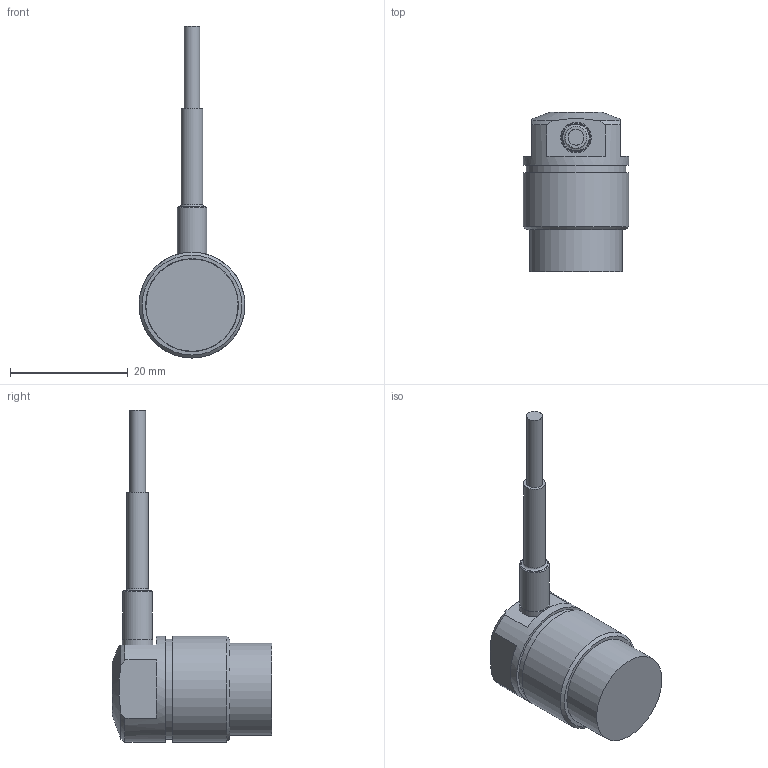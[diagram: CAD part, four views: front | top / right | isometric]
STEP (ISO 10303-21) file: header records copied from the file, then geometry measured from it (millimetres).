
FILE_DESCRIPTION( ( 'STEP AP214' ), '1' );
FILE_NAME( 'N:/Engineering/CAD_Solid/Wirbelstrom/Wirbelstromsensoren/T5/T5-S-KR.stp', '2011-12-01T13:27:03', ( ' ' ), ( ' ' ), 'XStep 1.0', ' ', ' ' );
FILE_SCHEMA( ( 'CONFIG_CONTROL_DESIGN) ( )' ) );
Length unit declared in the file: metre
Products named in the file (5): 1; 2; 3; 4; 5
Bounding box: 18 x 27.1 x 56.5 mm (x, y, z)
Surface area: 2742.1 mm2 (no closed solid volume)
Topology: 0 solids, 31 shells, 31 faces, 110 edges, 98 vertices
Faces by surface type: plane 16, cylinder 8, cone 5, torus 2
Full cylindrical faces by diameter (mm): 2.7 x1, 3.7 x1, 5 x1, 5.2 x1, 15.7 x1, 17 x1, 18 x2
Entity records: 1468 total; most frequent: CARTESIAN_POINT 314, DIRECTION 206, AXIS2_PLACEMENT_3D 94, ORIENTED_EDGE 94, EDGE_CURVE 94, VERTEX_POINT 94, CIRCLE 58, FACE_BOUND 51
